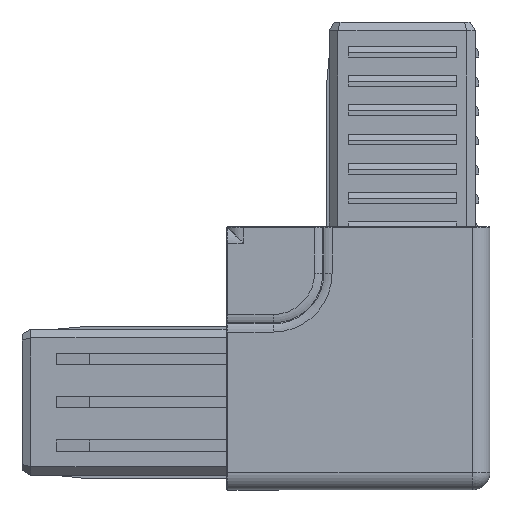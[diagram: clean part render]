
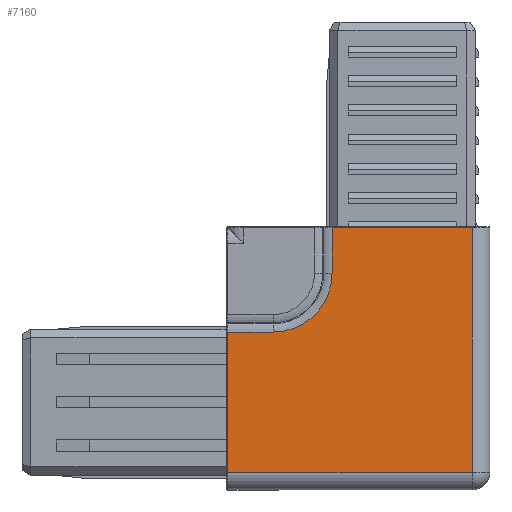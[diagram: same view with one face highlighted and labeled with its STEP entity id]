
A CAD part, left-side view. The second image highlights one B-rep face of the part: STEP entity #7160.
In plain terms, the highlighted planar face has unit normal (-1, 0, 0).
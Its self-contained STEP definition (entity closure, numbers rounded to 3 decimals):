
#248 = VERTEX_POINT ( 'NONE', #8978 ) ;
#800 = CARTESIAN_POINT ( 'NONE',  ( -22.5, 22.5, -12. ) ) ;
#1510 = CARTESIAN_POINT ( 'NONE',  ( -22.5, 4.5, 29.85 ) ) ;
#1624 = DIRECTION ( 'NONE',  ( 0., 1., 0. ) ) ;
#1908 = ORIENTED_EDGE ( 'NONE', *, *, #12528, .T. ) ;
#1983 = EDGE_CURVE ( 'NONE', #3592, #17038, #6018, .T. ) ;
#2738 = DIRECTION ( 'NONE',  ( 1., 0., 0. ) ) ;
#2908 = LINE ( 'NONE', #1510, #7135 ) ;
#3592 = VERTEX_POINT ( 'NONE', #17404 ) ;
#4307 = EDGE_CURVE ( 'NONE', #6306, #15662, #2908, .T. ) ;
#4597 = DIRECTION ( 'NONE',  ( 0., 0., -1. ) ) ;
#4770 = ORIENTED_EDGE ( 'NONE', *, *, #8599, .T. ) ;
#5394 = LINE ( 'NONE', #11370, #14104 ) ;
#6018 = LINE ( 'NONE', #800, #16655 ) ;
#6083 = ORIENTED_EDGE ( 'NONE', *, *, #1983, .F. ) ;
#6193 = EDGE_CURVE ( 'NONE', #248, #17038, #5394, .T. ) ;
#6234 = DIRECTION ( 'NONE',  ( 0., 1., 0. ) ) ;
#6280 = CARTESIAN_POINT ( 'NONE',  ( -22.5, 22.35, -12. ) ) ;
#6306 = VERTEX_POINT ( 'NONE', #6963 ) ;
#6324 = VECTOR ( 'NONE', #16852, 1000. ) ;
#6624 = CARTESIAN_POINT ( 'NONE',  ( -22.5, 14.55, 12. ) ) ;
#6788 = VECTOR ( 'NONE', #17619, 1000. ) ;
#6963 = CARTESIAN_POINT ( 'NONE',  ( -22.5, -19.5, 29.85 ) ) ;
#7109 = AXIS2_PLACEMENT_3D ( 'NONE', #14271, #14333, #14394 ) ;
#7135 = VECTOR ( 'NONE', #1624, 1000. ) ;
#7149 = DIRECTION ( 'NONE',  ( 0., 0., -1. ) ) ;
#7160 = ADVANCED_FACE ( 'NONE', ( #10671 ), #13060, .T. ) ;
#7424 = CIRCLE ( 'NONE', #12971, 10.05 ) ;
#7633 = VECTOR ( 'NONE', #7149, 1000. ) ;
#8462 = EDGE_CURVE ( 'NONE', #16005, #12370, #7424, .T. ) ;
#8599 = EDGE_CURVE ( 'NONE', #15662, #16005, #11278, .T. ) ;
#8978 = CARTESIAN_POINT ( 'NONE',  ( -22.5, 22.35, 12. ) ) ;
#9512 = EDGE_LOOP ( 'NONE', ( #17188, #11725, #6083, #1908, #11991, #4770, #10847 ) ) ;
#10671 = FACE_OUTER_BOUND ( 'NONE', #9512, .T. ) ;
#10847 = ORIENTED_EDGE ( 'NONE', *, *, #8462, .T. ) ;
#11278 = LINE ( 'NONE', #16558, #7633 ) ;
#11370 = CARTESIAN_POINT ( 'NONE',  ( -22.5, 22.35, -12. ) ) ;
#11725 = ORIENTED_EDGE ( 'NONE', *, *, #6193, .T. ) ;
#11991 = ORIENTED_EDGE ( 'NONE', *, *, #4307, .T. ) ;
#12004 = CARTESIAN_POINT ( 'NONE',  ( -22.5, 4.5, 22.05 ) ) ;
#12143 = CARTESIAN_POINT ( 'NONE',  ( -22.5, 14.55, 22.05 ) ) ;
#12370 = VERTEX_POINT ( 'NONE', #6624 ) ;
#12528 = EDGE_CURVE ( 'NONE', #3592, #6306, #17632, .T. ) ;
#12971 = AXIS2_PLACEMENT_3D ( 'NONE', #12143, #2738, #14893 ) ;
#13060 = PLANE ( 'NONE',  #7109 ) ;
#13502 = CARTESIAN_POINT ( 'NONE',  ( -22.5, 14.55, 12. ) ) ;
#14104 = VECTOR ( 'NONE', #4597, 1000. ) ;
#14108 = CARTESIAN_POINT ( 'NONE',  ( -22.5, 4.5, 29.85 ) ) ;
#14271 = CARTESIAN_POINT ( 'NONE',  ( -22.5, 0., 7.5 ) ) ;
#14333 = DIRECTION ( 'NONE',  ( -1., 0., 0. ) ) ;
#14394 = DIRECTION ( 'NONE',  ( 0., 0., -1. ) ) ;
#14893 = DIRECTION ( 'NONE',  ( 0., -1., 0. ) ) ;
#15467 = CARTESIAN_POINT ( 'NONE',  ( -22.5, -19.5, 30. ) ) ;
#15662 = VERTEX_POINT ( 'NONE', #14108 ) ;
#16005 = VERTEX_POINT ( 'NONE', #12004 ) ;
#16558 = CARTESIAN_POINT ( 'NONE',  ( -22.5, 4.5, 34. ) ) ;
#16617 = EDGE_CURVE ( 'NONE', #12370, #248, #17015, .T. ) ;
#16655 = VECTOR ( 'NONE', #6234, 1000. ) ;
#16852 = DIRECTION ( 'NONE',  ( 0., 0., 1. ) ) ;
#17015 = LINE ( 'NONE', #13502, #6788 ) ;
#17038 = VERTEX_POINT ( 'NONE', #6280 ) ;
#17188 = ORIENTED_EDGE ( 'NONE', *, *, #16617, .T. ) ;
#17404 = CARTESIAN_POINT ( 'NONE',  ( -22.5, -19.5, -12. ) ) ;
#17619 = DIRECTION ( 'NONE',  ( 0., 1., 0. ) ) ;
#17632 = LINE ( 'NONE', #15467, #6324 ) ;
